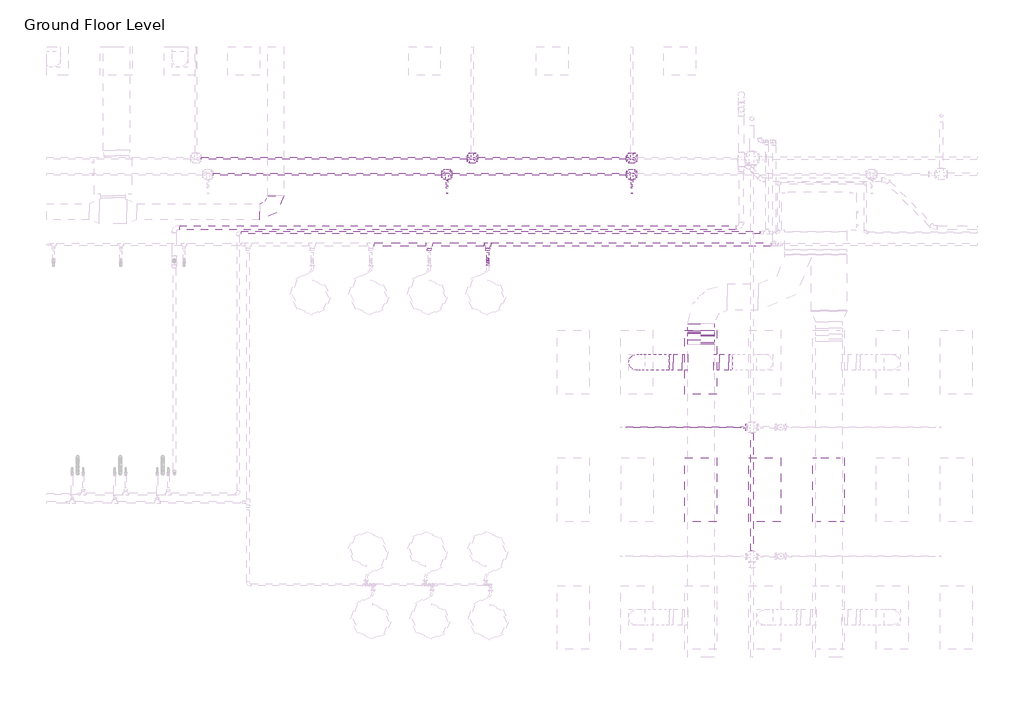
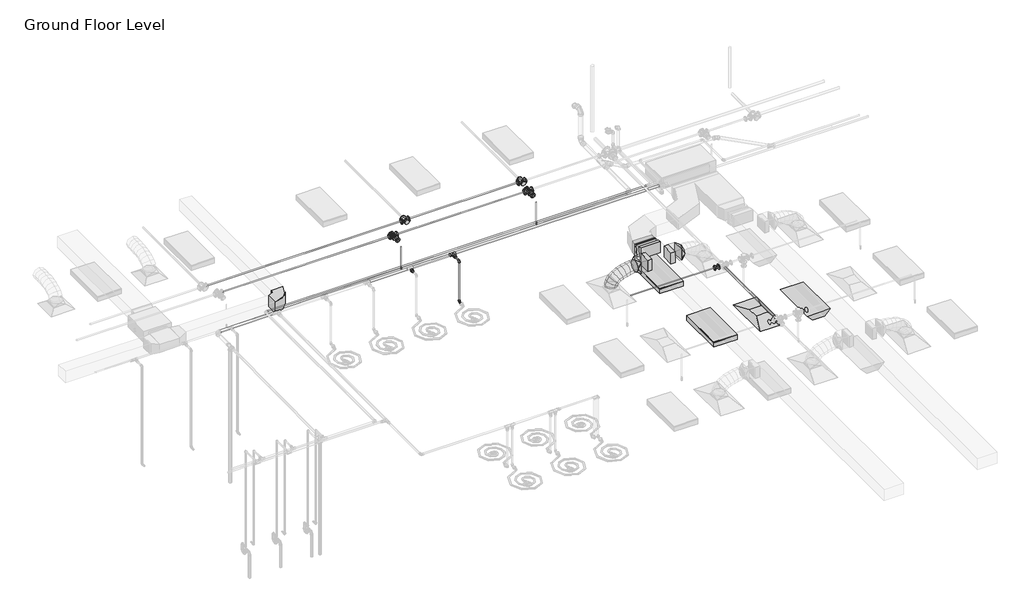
# One storey, part 47 of 66: 18 pipe segments, 12 pipe fittings, 8 duct fittings, 5 duct segments, 3 light fixtures, 2 fire suppression terminals, 1 air terminal.
"""IFC4 building model written with IfcOpenShell, lengths in millimetres."""

from ifc_helpers import new_model, si_unit, point, frame, frame_2d, origin, place, context, project, spatial, polyline, circle_curve, ellipse_curve, trimmed, segment, composite_curve, outline, extrude, transform, mapped, element, save
from ifc_brep_helpers import plane_surface, cylinder_surface, advanced_brep
from components import m_return_diffuser_1200x600_1200_x_600_face_300_x_300_d1983ef6, m_rectangular_elbow_radius_1_w_618da153, m_rectangular_elbow_radius_1_w_1a1d0e92, m_rectangular_takeoff_standard_cb0ccb98, m_rectangular_takeoff_standard_2be5eba1, m_rectangular_transition_angle_45_degree_8d40617b, m_rectangular_to_round_transition_angle_45_degree_641efff0, m_sprinkler_pendent_15_mm_pendent_06fcbd8e, m_emergency_recessed_lighting_fixture_600x1200_277_5b10b25d, m_troffer_light_parabolic_rectangular1_0600x1200mm_4_lamp_86473d4a, m_reducer_flanged_cs_class_150_standard_ccf252ad, m_reducer_flanged_cs_class_150_standard_83138b42, m_tee_round_base_flanged_cs_class_150_standard_7e5987a1, standard_517a5a8d, standard_cd25fed3, standard_f1337950

model = new_model("IFC4")

# Units and contexts
model_context = context("Model", 3, world=origin())
ifc_project = project(units=[si_unit("LENGTHUNIT", "METRE", prefix="MILLI")], contexts=[model_context])

# Site, building, storey
site = spatial("IfcSite", under=ifc_project)
building = spatial("IfcBuilding", under=site)
storey = spatial("IfcBuildingStorey", under=building, Name="Ground Floor Level", Elevation=900.0)

# Air terminal
placement = place(None, origin())
m_return_diffuser_1200x600_1200_x_600_face_300_x_300_shape = m_return_diffuser_1200x600_1200_x_600_face_300_x_300_d1983ef6(model_context)
element("IfcAirTerminal", 1, ObjectType="M_Return Diffuser 1200x600 : 1200 x 600 Face 300 x 300 Connection", at=placement, inside=storey, context=model_context, shape_type="MappedRepresentation", body=[
    mapped(m_return_diffuser_1200x600_1200_x_600_face_300_x_300_shape, transform((-5737.2327605, 8835.2153534, 3650.0), x_axis=(0.0, 1.0, 0.0), y_axis=(-1.0, 0.0, 0.0), z_axis=(0.0, 0.0, 1.0))),
])

# Duct fittings
m_rectangular_elbow_radius_1_w_shape = m_rectangular_elbow_radius_1_w_618da153(model_context)
element("IfcDuctFitting", 2, ObjectType="M_Rectangular Elbow - Radius : 1 W", at=placement, inside=storey, context=model_context, shape_type="MappedRepresentation", body=[
    mapped(m_rectangular_elbow_radius_1_w_shape, transform((-14937.2327605, 14069.8153534, 4075.2881511), x_axis=(1.0, 0.0, 0.0), y_axis=(0.0, 1.0, 0.0), z_axis=(0.0, 0.0, 1.0))),
])
m_rectangular_elbow_radius_1_w_2_shape = m_rectangular_elbow_radius_1_w_1a1d0e92(model_context)
element("IfcDuctFitting", 3, ObjectType="M_Rectangular Elbow - Radius : 1 W", at=placement, inside=storey, context=model_context, shape_type="MappedRepresentation", body=[
    mapped(m_rectangular_elbow_radius_1_w_2_shape, transform((-6939.6910789, 11605.2153534, 4150.0), x_axis=(0.0, 1.0, 0.0), y_axis=(-4.8368849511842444e-06, 0.0, -0.9999999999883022), z_axis=(-0.9999999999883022, 0.0, 4.8368849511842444e-06))),
])
element("IfcDuctFitting", 4, ObjectType="M_Rectangular Elbow - Radius : 1 W", at=placement, inside=storey, context=model_context, shape_type="MappedRepresentation", body=[
    mapped(m_rectangular_elbow_radius_1_w_2_shape, transform((-6939.6912607, 11801.8710367, 4107.1399598), x_axis=(0.0, -1.0, 0.0), y_axis=(4.836885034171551e-06, 0.0, 0.9999999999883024), z_axis=(-0.9999999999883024, 0.0, 4.836885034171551e-06))),
])
m_rectangular_takeoff_standard_shape = m_rectangular_takeoff_standard_cb0ccb98(model_context)
element("IfcDuctFitting", 5, ObjectType="M_Rectangular Takeoff : Standard", at=placement, inside=storey, context=model_context, shape_type="MappedRepresentation", body=[
    mapped(m_rectangular_takeoff_standard_shape, transform((-6689.6910789, 11235.2153534, 4150.0), x_axis=(1.0, 0.0, 0.0), y_axis=(0.0, -1.0, 0.0), z_axis=(0.0, 0.0, -1.0))),
])
m_rectangular_takeoff_standard_2_shape = m_rectangular_takeoff_standard_2be5eba1(model_context)
element("IfcDuctFitting", 6, ObjectType="M_Rectangular Takeoff : Standard", at=placement, inside=storey, context=model_context, shape_type="MappedRepresentation", body=[
    mapped(m_rectangular_takeoff_standard_2_shape, transform((-7189.6910789, 11235.2153534, 4150.0), x_axis=(-1.0, 0.0, 0.0), y_axis=(0.0, 1.0, 0.0), z_axis=(0.0, 0.0, -1.0))),
])
m_rectangular_transition_angle_45_degree_shape = m_rectangular_transition_angle_45_degree_8d40617b(model_context)
element("IfcDuctFitting", 7, ObjectType="M_Rectangular Transition - Angle : 45 Degree", at=placement, inside=storey, context=model_context, shape_type="MappedRepresentation", body=[
    mapped(m_rectangular_transition_angle_45_degree_shape, transform((-6939.6912351, 11774.1025359, 4112.4195134), x_axis=(9.034404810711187e-07, -0.9824014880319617, 0.18678146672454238), y_axis=(0.9999999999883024, 0.0, -4.836885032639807e-06), z_axis=(4.751763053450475e-06, 0.1867814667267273, 0.9824014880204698))),
])
m_rectangular_to_round_transition_angle_45_degree_shape = m_rectangular_to_round_transition_angle_45_degree_641efff0(model_context)
element("IfcDuctFitting", 8, ObjectType="M_Rectangular to Round Transition - Angle : 45 Degree", at=placement, inside=storey, context=model_context, shape_type="MappedRepresentation", body=[
    mapped(m_rectangular_to_round_transition_angle_45_degree_shape, transform((-7461.2487616, 11235.2153534, 4150.0), x_axis=(-1.0, 0.0, 0.0), y_axis=(0.0, -1.0, 0.0), z_axis=(0.0, 0.0, 1.0))),
])
element("IfcDuctFitting", 9, ObjectType="M_Rectangular to Round Transition - Angle : 45 Degree", at=placement, inside=storey, context=model_context, shape_type="MappedRepresentation", body=[
    mapped(m_rectangular_to_round_transition_angle_45_degree_shape, transform((-6418.6686918, 11235.2153534, 4150.0), x_axis=(1.0, 0.0, 0.0), y_axis=(0.0, 1.0, 0.0), z_axis=(0.0, 0.0, 1.0))),
])

# Duct segments
element("IfcDuctSegment", 10, ObjectType="Flex - Round", at=placement, inside=storey, context=model_context, shape_type="AdvancedBrep", body=[
    advanced_brep(
    [(-7992.6846929, 11235.2153534, 3826.6), (-8142.6846929, 11085.2153534, 3826.6), (-8292.6846929, 11235.2153534, 3826.6), (-8142.6846929, 11385.2153534, 3826.6), (-7992.6846929, 11235.2153534, 3832.4838104), (-8142.6846929, 11085.2153534, 3857.3049615), (-8292.6846929, 11235.2153534, 3882.1261126), (-8142.6846929, 11385.2153534, 3857.3049615), (-7990.555208, 11235.2153534, 3838.7421096), (-8126.0232883, 11085.2153534, 3906.2708192), (-8261.4913687, 11235.2153534, 3973.7995287), (-8126.0232883, 11385.2153534, 3906.2708192), (-7968.5331802, 11235.2153534, 3871.1472855), (-8080.1452707, 11085.2153534, 3973.7798261), (-8191.7573612, 11235.2153534, 4076.4123668), (-8080.1452707, 11385.2153534, 3973.7798261), (-7928.5904556, 11235.2153534, 3903.4915826), (-8011.2099341, 11085.2153534, 4029.6013814), (-8093.8294126, 11235.2153534, 4155.7111802), (-8011.2099341, 11385.2153534, 4029.6013814), (-7865.6682729, 11235.2153534, 3936.1928758), (-7925.3765727, 11085.2153534, 4074.2098454), (-7985.0848725, 11235.2153534, 4212.226815), (-7925.3765727, 11385.2153534, 4074.2098454), (-7786.815881, 11235.2153534, 3963.8479616), (-7828.8044806, 11085.2153534, 4108.0795788), (-7870.7930803, 11235.2153534, 4252.311196), (-7828.8044806, 11385.2153534, 4108.0795788), (-7700.2438983, 11235.2153534, 3984.0509494), (-7727.652952, 11085.2153534, 4131.684942), (-7755.0620057, 11235.2153534, 4279.3189347), (-7727.652952, 11385.2153534, 4131.684942), (-7613.759715, 11235.2153534, 3996.0504424), (-7628.081281, 11085.2153534, 4145.5002956), (-7642.4028469, 11235.2153534, 4294.9501488), (-7628.081281, 11385.2153534, 4145.5002956), (-7539.5984134, 11235.2153534, 4000.0), (-7543.5898089, 11085.2153534, 4150.0), (-7547.5812043, 11235.2153534, 4300.0), (-7543.5898089, 11385.2153534, 4150.0), (-7536.2487616, 11235.2153534, 4000.0), (-7536.2487616, 11385.2153534, 4150.0), (-7536.2487616, 11235.2153534, 4300.0), (-7536.2487616, 11085.2153534, 4150.0)],
    [
        (0, 1, circle_curve(frame((-8142.6846929, 11235.2153534, 3826.6), z_axis=(0.0, 0.0, -1.0), x_axis=(1.0, 0.0, 0.0)), 150.0)),
        (1, 2, circle_curve(frame((-8142.6846929, 11235.2153534, 3826.6), z_axis=(0.0, 0.0, -1.0), x_axis=(1.0, 0.0, 0.0)), 150.0)),
        (2, 3, circle_curve(frame((-8142.6846929, 11235.2153534, 3826.6), z_axis=(0.0, 0.0, -1.0), x_axis=(1.0, 0.0, 0.0)), 150.0)),
        (3, 0, circle_curve(frame((-8142.6846929, 11235.2153534, 3826.6), z_axis=(0.0, 0.0, -1.0), x_axis=(1.0, 0.0, 0.0)), 150.0)),
        (0, 4),
        (4, 5, ellipse_curve(frame((-8142.6846929, 11235.2153534, 3857.3049615), z_axis=(-0.1632543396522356, 0.0, -0.9865840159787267), x_axis=(0.9865840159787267, 0.0, -0.16325433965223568)), 152.039763, 150.0)),
        (5, 1),
        (5, 6, ellipse_curve(frame((-8142.6846929, 11235.2153534, 3857.3049615), z_axis=(-0.1632543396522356, 0.0, -0.9865840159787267), x_axis=(0.9865840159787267, 0.0, -0.16325433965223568)), 152.039763, 150.0)),
        (6, 2),
        (6, 7, ellipse_curve(frame((-8142.6846929, 11235.2153534, 3857.3049615), z_axis=(-0.1632543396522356, 0.0, -0.9865840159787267), x_axis=(0.9865840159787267, 0.0, -0.16325433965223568)), 152.039763, 150.0)),
        (7, 3),
        (7, 4, ellipse_curve(frame((-8142.6846929, 11235.2153534, 3857.3049615), z_axis=(-0.1632543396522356, 0.0, -0.9865840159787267), x_axis=(0.9865840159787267, 0.0, -0.16325433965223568)), 152.039763, 150.0)),
        (4, 8),
        (8, 9, ellipse_curve(frame((-8126.0232883, 11235.2153534, 3906.2708192), z_axis=(-0.4461280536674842, 0.0, -0.8949691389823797), x_axis=(0.8949691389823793, 0.0, -0.4461280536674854)), 151.366203, 150.0)),
        (9, 5),
        (9, 10, ellipse_curve(frame((-8126.0232883, 11235.2153534, 3906.2708192), z_axis=(-0.4461280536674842, 0.0, -0.8949691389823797), x_axis=(0.8949691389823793, 0.0, -0.4461280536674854)), 151.366203, 150.0)),
        (10, 6),
        (10, 11, ellipse_curve(frame((-8126.0232883, 11235.2153534, 3906.2708192), z_axis=(-0.4461280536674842, 0.0, -0.8949691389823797), x_axis=(0.8949691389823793, 0.0, -0.4461280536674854)), 151.366203, 150.0)),
        (11, 7),
        (11, 8, ellipse_curve(frame((-8126.0232883, 11235.2153534, 3906.2708192), z_axis=(-0.4461280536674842, 0.0, -0.8949691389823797), x_axis=(0.8949691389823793, 0.0, -0.4461280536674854)), 151.366203, 150.0)),
        (8, 12),
        (12, 13, ellipse_curve(frame((-8080.1452707, 11235.2153534, 3973.7798261), z_axis=(-0.676875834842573, 0.0, -0.7360972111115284), x_axis=(0.7360972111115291, 0.0, -0.6768758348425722)), 151.6268352, 150.0)),
        (13, 9),
        (13, 14, ellipse_curve(frame((-8080.1452707, 11235.2153534, 3973.7798261), z_axis=(-0.676875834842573, 0.0, -0.7360972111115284), x_axis=(0.7360972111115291, 0.0, -0.6768758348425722)), 151.6268352, 150.0)),
        (14, 10),
        (14, 15, ellipse_curve(frame((-8080.1452707, 11235.2153534, 3973.7798261), z_axis=(-0.676875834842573, 0.0, -0.7360972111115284), x_axis=(0.7360972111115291, 0.0, -0.6768758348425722)), 151.6268352, 150.0)),
        (15, 11),
        (15, 12, ellipse_curve(frame((-8080.1452707, 11235.2153534, 3973.7798261), z_axis=(-0.676875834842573, 0.0, -0.7360972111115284), x_axis=(0.7360972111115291, 0.0, -0.6768758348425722)), 151.6268352, 150.0)),
        (12, 16),
        (16, 17, ellipse_curve(frame((-8011.2099341, 11235.2153534, 4029.6013814), z_axis=(-0.8364738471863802, 0.0, -0.5480068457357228), x_axis=(0.5480068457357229, 0.0, -0.8364738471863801)), 150.7635884, 150.0)),
        (17, 13),
        (17, 18, ellipse_curve(frame((-8011.2099341, 11235.2153534, 4029.6013814), z_axis=(-0.8364738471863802, 0.0, -0.5480068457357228), x_axis=(0.5480068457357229, 0.0, -0.8364738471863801)), 150.7635884, 150.0)),
        (18, 14),
        (18, 19, ellipse_curve(frame((-8011.2099341, 11235.2153534, 4029.6013814), z_axis=(-0.8364738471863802, 0.0, -0.5480068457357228), x_axis=(0.5480068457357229, 0.0, -0.8364738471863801)), 150.7635884, 150.0)),
        (19, 15),
        (19, 16, ellipse_curve(frame((-8011.2099341, 11235.2153534, 4029.6013814), z_axis=(-0.8364738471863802, 0.0, -0.5480068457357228), x_axis=(0.5480068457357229, 0.0, -0.8364738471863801)), 150.7635884, 150.0)),
        (16, 20),
        (20, 21, ellipse_curve(frame((-7925.3765727, 11235.2153534, 4074.2098454), z_axis=(-0.917795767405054, 0.0, -0.3970528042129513), x_axis=(0.3970528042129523, 0.0, -0.9177957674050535)), 150.3787384, 150.0)),
        (21, 17),
        (21, 22, ellipse_curve(frame((-7925.3765727, 11235.2153534, 4074.2098454), z_axis=(-0.917795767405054, 0.0, -0.3970528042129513), x_axis=(0.3970528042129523, 0.0, -0.9177957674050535)), 150.3787384, 150.0)),
        (22, 18),
        (22, 23, ellipse_curve(frame((-7925.3765727, 11235.2153534, 4074.2098454), z_axis=(-0.917795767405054, 0.0, -0.3970528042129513), x_axis=(0.3970528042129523, 0.0, -0.9177957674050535)), 150.3787384, 150.0)),
        (23, 19),
        (23, 20, ellipse_curve(frame((-7925.3765727, 11235.2153534, 4074.2098454), z_axis=(-0.917795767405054, 0.0, -0.3970528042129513), x_axis=(0.3970528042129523, 0.0, -0.9177957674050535)), 150.3787384, 150.0)),
        (20, 24),
        (24, 25, ellipse_curve(frame((-7828.8044806, 11235.2153534, 4108.0795788), z_axis=(-0.9601411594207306, 0.0, -0.2795155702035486), x_axis=(0.27951557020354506, 0.0, -0.9601411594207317)), 150.2191795, 150.0)),
        (25, 21),
        (25, 26, ellipse_curve(frame((-7828.8044806, 11235.2153534, 4108.0795788), z_axis=(-0.9601411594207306, 0.0, -0.2795155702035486), x_axis=(0.27951557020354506, 0.0, -0.9601411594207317)), 150.2191795, 150.0)),
        (26, 22),
        (26, 27, ellipse_curve(frame((-7828.8044806, 11235.2153534, 4108.0795788), z_axis=(-0.9601411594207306, 0.0, -0.2795155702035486), x_axis=(0.27951557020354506, 0.0, -0.9601411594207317)), 150.2191795, 150.0)),
        (27, 23),
        (27, 24, ellipse_curve(frame((-7828.8044806, 11235.2153534, 4108.0795788), z_axis=(-0.9601411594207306, 0.0, -0.2795155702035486), x_axis=(0.27951557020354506, 0.0, -0.9601411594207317)), 150.2191795, 150.0)),
        (24, 28),
        (28, 29, ellipse_curve(frame((-7727.652952, 11235.2153534, 4131.684942), z_axis=(-0.9831991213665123, 0.0, -0.1825362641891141), x_axis=(0.18253626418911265, 0.0, -0.9831991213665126)), 150.1567581, 150.0)),
        (29, 25),
        (29, 30, ellipse_curve(frame((-7727.652952, 11235.2153534, 4131.684942), z_axis=(-0.9831991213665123, 0.0, -0.1825362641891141), x_axis=(0.18253626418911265, 0.0, -0.9831991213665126)), 150.1567581, 150.0)),
        (30, 26),
        (30, 31, ellipse_curve(frame((-7727.652952, 11235.2153534, 4131.684942), z_axis=(-0.9831991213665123, 0.0, -0.1825362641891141), x_axis=(0.18253626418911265, 0.0, -0.9831991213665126)), 150.1567581, 150.0)),
        (31, 27),
        (31, 28, ellipse_curve(frame((-7727.652952, 11235.2153534, 4131.684942), z_axis=(-0.9831991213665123, 0.0, -0.1825362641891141), x_axis=(0.18253626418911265, 0.0, -0.9831991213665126)), 150.1567581, 150.0)),
        (28, 32),
        (32, 33, ellipse_curve(frame((-7628.081281, 11235.2153534, 4145.5002956), z_axis=(-0.9954398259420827, 0.0, -0.09539157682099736), x_axis=(0.09539157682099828, 0.0, -0.9954398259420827)), 150.1344926, 150.0)),
        (33, 29),
        (33, 34, ellipse_curve(frame((-7628.081281, 11235.2153534, 4145.5002956), z_axis=(-0.9954398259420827, 0.0, -0.09539157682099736), x_axis=(0.09539157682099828, 0.0, -0.9954398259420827)), 150.1344926, 150.0)),
        (34, 30),
        (34, 35, ellipse_curve(frame((-7628.081281, 11235.2153534, 4145.5002956), z_axis=(-0.9954398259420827, 0.0, -0.09539157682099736), x_axis=(0.09539157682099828, 0.0, -0.9954398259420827)), 150.1344926, 150.0)),
        (35, 31),
        (35, 32, ellipse_curve(frame((-7628.081281, 11235.2153534, 4145.5002956), z_axis=(-0.9954398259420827, 0.0, -0.09539157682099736), x_axis=(0.09539157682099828, 0.0, -0.9954398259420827)), 150.1344926, 150.0)),
        (32, 36),
        (36, 37, ellipse_curve(frame((-7543.5898089, 11235.2153534, 4150.0), z_axis=(-0.9996461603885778, 0.0, -0.026599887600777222), x_axis=(0.026599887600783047, 0.0, -0.9996461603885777)), 150.0530947, 150.0)),
        (37, 33),
        (37, 38, ellipse_curve(frame((-7543.5898089, 11235.2153534, 4150.0), z_axis=(-0.9996461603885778, 0.0, -0.026599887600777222), x_axis=(0.026599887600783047, 0.0, -0.9996461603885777)), 150.0530947, 150.0)),
        (38, 34),
        (38, 39, ellipse_curve(frame((-7543.5898089, 11235.2153534, 4150.0), z_axis=(-0.9996461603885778, 0.0, -0.026599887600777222), x_axis=(0.026599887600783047, 0.0, -0.9996461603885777)), 150.0530947, 150.0)),
        (39, 35),
        (39, 36, ellipse_curve(frame((-7543.5898089, 11235.2153534, 4150.0), z_axis=(-0.9996461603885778, 0.0, -0.026599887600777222), x_axis=(0.026599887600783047, 0.0, -0.9996461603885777)), 150.0530947, 150.0)),
        (40, 41, circle_curve(frame((-7536.2487616, 11235.2153534, 4150.0), z_axis=(1.0, 0.0, 0.0), x_axis=(0.0, 0.0, -1.0)), 150.0)),
        (41, 42, circle_curve(frame((-7536.2487616, 11235.2153534, 4150.0), z_axis=(1.0, 0.0, 0.0), x_axis=(0.0, 0.0, -1.0)), 150.0)),
        (42, 43, circle_curve(frame((-7536.2487616, 11235.2153534, 4150.0), z_axis=(1.0, 0.0, 0.0), x_axis=(0.0, 0.0, -1.0)), 150.0)),
        (43, 40, circle_curve(frame((-7536.2487616, 11235.2153534, 4150.0), z_axis=(1.0, 0.0, 0.0), x_axis=(0.0, 0.0, -1.0)), 150.0)),
        (36, 40),
        (43, 37),
        (42, 38),
        (41, 39),
    ],
    [
        plane_surface(frame((-8142.6846929, 11085.2153534, 3826.6), z_axis=(0.0, 0.0, -1.0), x_axis=(1.0, 0.0, 0.0))),
        cylinder_surface(frame((-8142.6846929, 11235.2153534, 3826.6), z_axis=(0.0, 0.0, -1.0), x_axis=(1.0, 0.0, 0.0)), 150.0),
        cylinder_surface(frame((-8142.6846929, 11235.2153534, 3857.3049615), z_axis=(-0.32212824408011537, 0.0, -0.946696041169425), x_axis=(0.946696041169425, 0.0, -0.32212824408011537)), 150.0),
        cylinder_surface(frame((-8126.0232883, 11235.2153534, 3906.2708192), z_axis=(-0.5620745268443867, 0.0, -0.8270865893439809), x_axis=(0.8270865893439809, 0.0, -0.5620745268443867)), 150.0),
        cylinder_surface(frame((-8080.1452707, 11235.2153534, 3973.7798261), z_axis=(-0.777152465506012, 0.0, -0.6293123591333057), x_axis=(0.6293123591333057, 0.0, -0.777152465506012)), 150.0),
        cylinder_surface(frame((-8011.2099341, 11235.2153534, 4029.6013814), z_axis=(-0.887322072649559, 0.0, -0.4611502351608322), x_axis=(0.4611502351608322, 0.0, -0.887322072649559)), 150.0),
        cylinder_surface(frame((-7925.3765727, 11235.2153534, 4074.2098454), z_axis=(-0.9436464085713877, 0.0, -0.3309553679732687), x_axis=(0.3309553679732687, 0.0, -0.9436464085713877)), 150.0),
        cylinder_surface(frame((-7828.8044806, 11235.2153534, 4108.0795788), z_axis=(-0.9738340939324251, 0.0, -0.2272601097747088), x_axis=(0.2272601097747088, 0.0, -0.9738340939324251)), 150.0),
        cylinder_surface(frame((-7727.652952, 11235.2153534, 4131.684942), z_axis=(-0.9905113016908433, 0.0, -0.1374312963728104), x_axis=(0.1374312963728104, 0.0, -0.9905113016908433)), 150.0),
        cylinder_surface(frame((-7628.081281, 11235.2153534, 4145.5002956), z_axis=(-0.998584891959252, 0.0, -0.05318095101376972), x_axis=(0.05318095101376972, 0.0, -0.998584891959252)), 150.0),
        plane_surface(frame((-7536.2487616, 11235.2153534, 4000.0), z_axis=(1.0, 0.0, 0.0), x_axis=(0.0, 1.0, 0.0))),
        cylinder_surface(frame((-7543.5898089, 11235.2153534, 4150.0), z_axis=(-1.0, 0.0, 0.0), x_axis=(0.0, 0.0, -1.0)), 150.0),
    ],
    [
        (0, [[1, 2, 3, 4]]),
        (1, [[-1, 5, 6, 7]]),
        (1, [[-2, -7, 8, 9]]),
        (1, [[-3, -9, 10, 11]]),
        (1, [[-4, -11, 12, -5]]),
        (2, [[-6, 13, 14, 15]]),
        (2, [[-8, -15, 16, 17]]),
        (2, [[-10, -17, 18, 19]]),
        (2, [[-12, -19, 20, -13]]),
        (3, [[-14, 21, 22, 23]]),
        (3, [[-16, -23, 24, 25]]),
        (3, [[-18, -25, 26, 27]]),
        (3, [[-20, -27, 28, -21]]),
        (4, [[-22, 29, 30, 31]]),
        (4, [[-24, -31, 32, 33]]),
        (4, [[-26, -33, 34, 35]]),
        (4, [[-28, -35, 36, -29]]),
        (5, [[-30, 37, 38, 39]]),
        (5, [[-32, -39, 40, 41]]),
        (5, [[-34, -41, 42, 43]]),
        (5, [[-36, -43, 44, -37]]),
        (6, [[-38, 45, 46, 47]]),
        (6, [[-40, -47, 48, 49]]),
        (6, [[-42, -49, 50, 51]]),
        (6, [[-44, -51, 52, -45]]),
        (7, [[-46, 53, 54, 55]]),
        (7, [[-48, -55, 56, 57]]),
        (7, [[-50, -57, 58, 59]]),
        (7, [[-52, -59, 60, -53]]),
        (8, [[-54, 61, 62, 63]]),
        (8, [[-56, -63, 64, 65]]),
        (8, [[-58, -65, 66, 67]]),
        (8, [[-60, -67, 68, -61]]),
        (9, [[-62, 69, 70, 71]]),
        (9, [[-64, -71, 72, 73]]),
        (9, [[-66, -73, 74, 75]]),
        (9, [[-68, -75, 76, -69]]),
        (10, [[77, 78, 79, 80]]),
        (11, [[-70, 81, -80, 82]]),
        (11, [[-72, -82, -79, 83]]),
        (11, [[-74, -83, -78, 84]]),
        (11, [[-76, -84, -77, -81]]),
    ],
),
])
element("IfcDuctSegment", 11, ObjectType="Radius Elbows / Taps", at=placement, inside=storey, context=model_context, shape_type="SweptSolid", body=[
    extrude(outline(polyline([(-7291.2910789, 11385.2153534), (-7291.2910789, 11085.2153534), (-7461.2487616, 11085.2153534), (-7461.2487616, 11385.2153534), (-7291.2910789, 11385.2153534)])), frame((0.0, 0.0, 4000.0), z_axis=(0.0, 0.0, 1.0), x_axis=(1.0, 0.0, 0.0)), (0.0, 0.0, 1.0), 300.0),
])
element("IfcDuctSegment", 12, ObjectType="Radius Elbows / Taps", at=placement, inside=storey, context=model_context, shape_type="SweptSolid", body=[
    extrude(outline(polyline([(-6588.0910789, 11085.2153534), (-6588.0910789, 11385.2153534), (-6418.6686918, 11385.2153534), (-6418.6686918, 11085.2153534), (-6588.0910789, 11085.2153534)])), frame((0.0, 0.0, 4000.0), z_axis=(0.0, 0.0, 1.0), x_axis=(1.0, 0.0, 0.0)), (0.0, 0.0, 1.0), 300.0),
])
element("IfcDuctSegment", 13, ObjectType="Radius Elbows / Taps", at=placement, inside=storey, context=model_context, shape_type="SweptSolid", body=[
    extrude(outline(polyline([(-7189.6912607, 11959.4153535), (-6689.6912607, 11959.4153535), (-6689.6912607, 11830.1369759), (-7189.6912607, 11830.1369759), (-7189.6912607, 11959.4153535)])), frame((0.0, 0.0, 3957.1399598), z_axis=(0.0, 0.0, 1.0), x_axis=(1.0, 0.0, 0.0)), (0.0, 0.0, 1.0), 300.0),
])
element("IfcDuctSegment", 14, ObjectType="Radius Elbows / Taps", at=placement, inside=storey, context=model_context, shape_type="SweptSolid", body=[
    extrude(outline(polyline([(-1e-07, -500.0), (0.0, 0.0), (119.6684185, 0.0), (119.6684185, -500.0), (-1e-07, -500.0)])), frame((-7189.6911044, 11604.9664123, 3997.3602654), z_axis=(0.0, 0.186781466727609, 0.9824014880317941), x_axis=(-9.034404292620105e-07, 0.982401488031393, -0.18678146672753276)), (0.0, 0.0, 1.0), 300.0),
])

# Fire suppression terminals
m_sprinkler_pendent_15_mm_pendent_shape = m_sprinkler_pendent_15_mm_pendent_06fcbd8e(model_context)
element("IfcFireSuppressionTerminal", 15, ObjectType="M_Sprinkler - Pendent : 15 mm Pendent", at=placement, inside=storey, context=model_context, shape_type="MappedRepresentation", body=[
    mapped(m_sprinkler_pendent_15_mm_pendent_shape, transform((-11714.286216, 14412.7243649, 3650.0), x_axis=(1.0, 0.0, 0.0), y_axis=(0.0, 1.0, 0.0), z_axis=(0.0, 0.0, 1.0))),
])
element("IfcFireSuppressionTerminal", 16, ObjectType="M_Sprinkler - Pendent : 15 mm Pendent", at=placement, inside=storey, context=model_context, shape_type="MappedRepresentation", body=[
    mapped(m_sprinkler_pendent_15_mm_pendent_shape, transform((-8237.2327605, 14412.7243649, 3650.0), x_axis=(1.0, 0.0, 0.0), y_axis=(0.0, 1.0, 0.0), z_axis=(0.0, 0.0, 1.0))),
])

# Light fixtures
m_emergency_recessed_lighting_fixture_600x1200_277_shape = m_emergency_recessed_lighting_fixture_600x1200_277_5b10b25d(model_context)
element("IfcLightFixture", 17, ObjectType="M_Emergency Recessed Lighting Fixture : 600x1200 - 277", at=placement, inside=storey, context=model_context, shape_type="MappedRepresentation", body=[
    mapped(m_emergency_recessed_lighting_fixture_600x1200_277_shape, transform((-4837.2327605, 8235.2153534, 3650.0), x_axis=(0.0, 1.0, 0.0), y_axis=(-1.0, 0.0, 0.0), z_axis=(0.0, 0.0, 1.0))),
])
m_troffer_light_parabolic_rectangular1_0600x1200mm_4_lamp_shape = m_troffer_light_parabolic_rectangular1_0600x1200mm_4_lamp_86473d4a(model_context)
element("IfcLightFixture", 18, ObjectType="M_Troffer Light - Parabolic Rectangular1 : 0600x1200mm(4 Lamp) - 277V 2", at=placement, inside=storey, context=model_context, shape_type="MappedRepresentation", body=[
    mapped(m_troffer_light_parabolic_rectangular1_0600x1200mm_4_lamp_shape, transform((-6996.6986926, 11253.918855, 3650.0), x_axis=(0.0, 1.0, 0.0), y_axis=(-1.0, 0.0, 0.0), z_axis=(0.0, 0.0, 1.0))),
])
element("IfcLightFixture", 19, ObjectType="M_Troffer Light - Parabolic Rectangular1 : 0600x1200mm(4 Lamp) - 277V 2", at=placement, inside=storey, context=model_context, shape_type="MappedRepresentation", body=[
    mapped(m_troffer_light_parabolic_rectangular1_0600x1200mm_4_lamp_shape, transform((-6996.6986926, 8853.918855, 3650.0), x_axis=(0.0, 1.0, 0.0), y_axis=(-1.0, 0.0, 0.0), z_axis=(0.0, 0.0, 1.0))),
])

# Pipe fittings
m_reducer_flanged_cs_class_150_standard_shape = m_reducer_flanged_cs_class_150_standard_ccf252ad(model_context)
element("IfcPipeFitting", 20, ObjectType="M_Reducer - Flanged - CS - Class 150 : Standard", at=placement, inside=storey, context=model_context, shape_type="MappedRepresentation", body=[
    mapped(m_reducer_flanged_cs_class_150_standard_shape, transform((-11714.286216, 14672.759591, 4291.0943441), x_axis=(0.0, -1.0, 0.0), y_axis=(1.0, 0.0, 0.0), z_axis=(0.0, 0.0, 1.0))),
])
element("IfcPipeFitting", 21, ObjectType="M_Reducer - Flanged - CS - Class 150 : Standard", at=placement, inside=storey, context=model_context, shape_type="MappedRepresentation", body=[
    mapped(m_reducer_flanged_cs_class_150_standard_shape, transform((-8237.2327605, 14672.759591, 4291.0943441), x_axis=(0.0, -1.0, 0.0), y_axis=(1.0, 0.0, 0.0), z_axis=(0.0, 0.0, 1.0))),
])
m_reducer_flanged_cs_class_150_standard_2_shape = m_reducer_flanged_cs_class_150_standard_83138b42(model_context)
element("IfcPipeFitting", 22, ObjectType="M_Reducer - Flanged - CS - Class 150 : Standard", at=placement, inside=storey, context=model_context, shape_type="MappedRepresentation", body=[
    mapped(m_reducer_flanged_cs_class_150_standard_2_shape, transform((-6080.130502, 10013.008259, 4360.0), x_axis=(-1.0, 0.0, 0.0), y_axis=(0.0, 0.0, -1.0), z_axis=(0.0, -1.0, 0.0))),
])
m_tee_round_base_flanged_cs_class_150_standard_shape = m_tee_round_base_flanged_cs_class_150_standard_7e5987a1(model_context)
element("IfcPipeFitting", 23, ObjectType="M_Tee Round Base - Flanged - CS - Class 150 : Standard", at=placement, inside=storey, context=model_context, shape_type="MappedRepresentation", body=[
    mapped(m_tee_round_base_flanged_cs_class_150_standard_shape, transform((-11714.286216, 14773.4681847, 4291.0943441), x_axis=(-1.0, 0.0, 0.0), y_axis=(0.0, 1.0, 0.0), z_axis=(0.0, 0.0, -1.0))),
])
element("IfcPipeFitting", 24, ObjectType="M_Tee Round Base - Flanged - CS - Class 150 : Standard", at=placement, inside=storey, context=model_context, shape_type="MappedRepresentation", body=[
    mapped(m_tee_round_base_flanged_cs_class_150_standard_shape, transform((-8237.2327605, 14773.4681847, 4291.0943441), x_axis=(-1.0, 0.0, 0.0), y_axis=(0.0, 1.0, 0.0), z_axis=(0.0, 0.0, -1.0))),
])
element("IfcPipeFitting", 25, ObjectType="M_Tee Round Base - Flanged - CS - Class 150 : Standard", at=placement, inside=storey, context=model_context, shape_type="MappedRepresentation", body=[
    mapped(m_tee_round_base_flanged_cs_class_150_standard_shape, transform((-11237.2327605, 15073.2009828, 4360.0), x_axis=(-1.0, 0.0, 0.0), y_axis=(0.0, -1.0, 0.0), z_axis=(0.0, 0.0, 1.0))),
])
element("IfcPipeFitting", 26, ObjectType="M_Tee Round Base - Flanged - CS - Class 150 : Standard", at=placement, inside=storey, context=model_context, shape_type="MappedRepresentation", body=[
    mapped(m_tee_round_base_flanged_cs_class_150_standard_shape, transform((-8237.2327605, 15073.2009828, 4360.0), x_axis=(-1.0, 0.0, 0.0), y_axis=(0.0, -1.0, 0.0), z_axis=(0.0, 0.0, 1.0))),
])
standard_shape = standard_517a5a8d(model_context)
element("IfcPipeFitting", 27, ObjectType="M_Elbow - CPVC - Sch 40 : Standard", at=placement, inside=storey, context=model_context, shape_type="MappedRepresentation", body=[
    mapped(standard_shape, transform((-10947.2327605, 13150.8347997, 4315.0), x_axis=(0.0, 0.0, 1.0), y_axis=(0.0, 1.0, 0.0), z_axis=(-1.0, 0.0, 0.0))),
])
element("IfcPipeFitting", 28, ObjectType="M_Elbow - CPVC - Sch 40 : Standard", at=placement, inside=storey, context=model_context, shape_type="MappedRepresentation", body=[
    mapped(standard_shape, transform((-10947.2327605, 13150.8347997, 3200.0), x_axis=(0.0, 0.0, -1.0), y_axis=(0.0, -1.0, 0.0), z_axis=(-1.0, 0.0, 0.0))),
])
standard_2_shape = standard_cd25fed3(model_context)
element("IfcPipeFitting", 29, ObjectType="M_Tee - CPVC - Sch 40 : Standard", at=placement, inside=storey, context=model_context, shape_type="MappedRepresentation", body=[
    mapped(standard_2_shape, transform((-10947.2327605, 13449.9865561, 4315.0), x_axis=(1.0, 0.0, 0.0), y_axis=(0.0, 1.0, 0.0), z_axis=(0.0, 0.0, 1.0))),
])
standard_3_shape = standard_f1337950(model_context)
element("IfcPipeFitting", 30, ObjectType="M_Coupling Reducing - CPVC - Sch 40 : Standard", at=placement, inside=storey, context=model_context, shape_type="MappedRepresentation", body=[
    mapped(standard_3_shape, transform((-12047.2327605, 13383.3115561, 4315.0), x_axis=(0.0, -1.0, 0.0), y_axis=(1.0, 0.0, 0.0), z_axis=(0.0, 0.0, 1.0))),
])
element("IfcPipeFitting", 31, ObjectType="M_Coupling Reducing - CPVC - Sch 40 : Standard", at=placement, inside=storey, context=model_context, shape_type="MappedRepresentation", body=[
    mapped(standard_3_shape, transform((-10947.2327605, 13383.3115561, 4315.0), x_axis=(0.0, -1.0, 0.0), y_axis=(1.0, 0.0, 0.0), z_axis=(0.0, 0.0, 1.0))),
])

# Pipe segments
element("IfcPipeSegment", 32, ObjectType="CPVC", at=placement, inside=storey, context=model_context, shape_type="SweptSolid", body=[
    extrude(outline(composite_curve([segment(trimmed(circle_curve(frame_2d((3200.0, -10947.2327605)), 16.7005), [point((3200.0, -10963.9332605))], [point((3183.2995, -10947.2327605))], False, "CARTESIAN"), True, "CONTINUOUS"), segment(trimmed(circle_curve(frame_2d((3200.0, -10947.2327605)), 16.7005), [point((3183.2995, -10947.2327605))], [point((3200.0, -10930.5322605))], False, "CARTESIAN"), True, "CONTINUOUS"), segment(trimmed(circle_curve(frame_2d((3200.0, -10947.2327605)), 16.7005), [point((3200.0, -10930.5322605))], [point((3216.7005, -10947.2327605))], False, "CARTESIAN"), True, "CONTINUOUS"), segment(trimmed(circle_curve(frame_2d((3200.0, -10947.2327605)), 16.7005), [point((3216.7005, -10947.2327605))], [point((3200.0, -10963.9332605))], False, "CARTESIAN"), True, "CONTINUOUS")], self_intersect=False)), frame((0.0, 13056.8347997, 0.0), z_axis=(0.0, 1.0, 0.0), x_axis=(0.0, 0.0, 1.0)), (0.0, 0.0, 1.0), 50.73745),
])
element("IfcPipeSegment", 33, ObjectType="CPVC", at=placement, inside=storey, context=model_context, shape_type="SweptSolid", body=[
    extrude(outline(composite_curve([segment(trimmed(circle_curve(frame_2d((4315.0, -10947.2327605)), 16.7005), [point((4315.0, -10930.5322605))], [point((4331.7005, -10947.2327605))], False, "CARTESIAN"), True, "CONTINUOUS"), segment(trimmed(circle_curve(frame_2d((4315.0, -10947.2327605)), 16.7005), [point((4331.7005, -10947.2327605))], [point((4315.0, -10963.9332605))], False, "CARTESIAN"), True, "CONTINUOUS"), segment(trimmed(circle_curve(frame_2d((4315.0, -10947.2327605)), 16.7005), [point((4315.0, -10963.9332605))], [point((4298.2995, -10947.2327605))], False, "CARTESIAN"), True, "CONTINUOUS"), segment(trimmed(circle_curve(frame_2d((4315.0, -10947.2327605)), 16.7005), [point((4298.2995, -10947.2327605))], [point((4315.0, -10930.5322605))], False, "CARTESIAN"), True, "CONTINUOUS")], self_intersect=False)), frame((0.0, 13194.0973497, 0.0), z_axis=(0.0, 1.0, 0.0), x_axis=(0.0, 0.0, 1.0)), (0.0, 0.0, 1.0), 109.4153315),
])
element("IfcPipeSegment", 34, ObjectType="CPVC", at=placement, inside=storey, context=model_context, shape_type="SweptSolid", body=[
    extrude(outline(composite_curve([segment(trimmed(circle_curve(frame_2d((-10947.2327605, 13150.8347997)), 16.7005), [point((-10963.9332605, 13150.8347997))], [point((-10947.2327605, 13167.5352997))], False, "CARTESIAN"), True, "CONTINUOUS"), segment(trimmed(circle_curve(frame_2d((-10947.2327605, 13150.8347997)), 16.7005), [point((-10947.2327605, 13167.5352997))], [point((-10930.5322605, 13150.8347997))], False, "CARTESIAN"), True, "CONTINUOUS"), segment(trimmed(circle_curve(frame_2d((-10947.2327605, 13150.8347997)), 16.7005), [point((-10930.5322605, 13150.8347997))], [point((-10947.2327605, 13134.1342997))], False, "CARTESIAN"), True, "CONTINUOUS"), segment(trimmed(circle_curve(frame_2d((-10947.2327605, 13150.8347997)), 16.7005), [point((-10947.2327605, 13134.1342997))], [point((-10963.9332605, 13150.8347997))], False, "CARTESIAN"), True, "CONTINUOUS")], self_intersect=False)), frame((0.0, 0.0, 3243.26255), z_axis=(0.0, 0.0, 1.0), x_axis=(1.0, 0.0, 0.0)), (0.0, 0.0, 1.0), 1028.4749),
])
element("IfcPipeSegment", 35, ObjectType="CPVC", at=placement, inside=storey, context=model_context, shape_type="SweptSolid", body=[
    extrude(outline(composite_curve([segment(trimmed(circle_curve(frame_2d((13449.9865561, 4315.0)), 30.1625), [point((13419.8240561, 4315.0))], [point((13449.9865561, 4345.1625))], False, "CARTESIAN"), True, "CONTINUOUS"), segment(trimmed(circle_curve(frame_2d((13449.9865561, 4315.0)), 30.1625), [point((13449.9865561, 4345.1625))], [point((13480.1490561, 4315.0))], False, "CARTESIAN"), True, "CONTINUOUS"), segment(trimmed(circle_curve(frame_2d((13449.9865561, 4315.0)), 30.1625), [point((13480.1490561, 4315.0))], [point((13449.9865561, 4284.8375))], False, "CARTESIAN"), True, "CONTINUOUS"), segment(trimmed(circle_curve(frame_2d((13449.9865561, 4315.0)), 30.1625), [point((13449.9865561, 4284.8375))], [point((13419.8240561, 4315.0))], False, "CARTESIAN"), True, "CONTINUOUS")], self_intersect=False)), frame((-13080.5577605, 0.0, 0.0), z_axis=(1.0, 0.0, 0.0), x_axis=(0.0, 1.0, 0.0)), (0.0, 0.0, 1.0), 966.65),
])
element("IfcPipeSegment", 36, ObjectType="CPVC", at=placement, inside=storey, context=model_context, shape_type="SweptSolid", body=[
    extrude(outline(composite_curve([segment(trimmed(circle_curve(frame_2d((13449.9865561, 4315.0)), 30.1625), [point((13419.8240561, 4315.0))], [point((13449.9865561, 4345.1625))], False, "CARTESIAN"), True, "CONTINUOUS"), segment(trimmed(circle_curve(frame_2d((13449.9865561, 4315.0)), 30.1625), [point((13449.9865561, 4345.1625))], [point((13480.1490561, 4315.0))], False, "CARTESIAN"), True, "CONTINUOUS"), segment(trimmed(circle_curve(frame_2d((13449.9865561, 4315.0)), 30.1625), [point((13480.1490561, 4315.0))], [point((13449.9865561, 4284.8375))], False, "CARTESIAN"), True, "CONTINUOUS"), segment(trimmed(circle_curve(frame_2d((13449.9865561, 4315.0)), 30.1625), [point((13449.9865561, 4284.8375))], [point((13419.8240561, 4315.0))], False, "CARTESIAN"), True, "CONTINUOUS")], self_intersect=False)), frame((-11980.5577605, 0.0, 0.0), z_axis=(1.0, 0.0, 0.0), x_axis=(0.0, 1.0, 0.0)), (0.0, 0.0, 1.0), 966.65),
])
element("IfcPipeSegment", 37, ObjectType="CPVC", at=placement, inside=storey, context=model_context, shape_type="SweptSolid", body=[
    extrude(outline(composite_curve([segment(trimmed(circle_curve(frame_2d((13675.2153534, 4250.0)), 21.082), [point((13654.1333534, 4250.0))], [point((13675.2153534, 4271.082))], False, "CARTESIAN"), True, "CONTINUOUS"), segment(trimmed(circle_curve(frame_2d((13675.2153534, 4250.0)), 21.082), [point((13675.2153534, 4271.082))], [point((13696.2973534, 4250.0))], False, "CARTESIAN"), True, "CONTINUOUS"), segment(trimmed(circle_curve(frame_2d((13675.2153534, 4250.0)), 21.082), [point((13696.2973534, 4250.0))], [point((13675.2153534, 4228.918))], False, "CARTESIAN"), True, "CONTINUOUS"), segment(trimmed(circle_curve(frame_2d((13675.2153534, 4250.0)), 21.082), [point((13675.2153534, 4228.918))], [point((13654.1333534, 4250.0))], False, "CARTESIAN"), True, "CONTINUOUS")], self_intersect=False)), frame((-15584.8736174, 0.0, 0.0), z_axis=(1.0, 0.0, 0.0), x_axis=(0.0, 1.0, 0.0)), (0.0, 0.0, 1.0), 9750.0786527),
])
element("IfcPipeSegment", 38, ObjectType="CPVC", at=placement, inside=storey, context=model_context, shape_type="SweptSolid", body=[
    extrude(outline(composite_curve([segment(trimmed(circle_curve(frame_2d((13449.9865561, 4315.0)), 30.1625), [point((13419.8240561, 4315.0))], [point((13449.9865561, 4345.1625))], False, "CARTESIAN"), True, "CONTINUOUS"), segment(trimmed(circle_curve(frame_2d((13449.9865561, 4315.0)), 30.1625), [point((13449.9865561, 4345.1625))], [point((13480.1490561, 4315.0))], False, "CARTESIAN"), True, "CONTINUOUS"), segment(trimmed(circle_curve(frame_2d((13449.9865561, 4315.0)), 30.1625), [point((13480.1490561, 4315.0))], [point((13449.9865561, 4284.8375))], False, "CARTESIAN"), True, "CONTINUOUS"), segment(trimmed(circle_curve(frame_2d((13449.9865561, 4315.0)), 30.1625), [point((13449.9865561, 4284.8375))], [point((13419.8240561, 4315.0))], False, "CARTESIAN"), True, "CONTINUOUS")], self_intersect=False)), frame((-10880.5577605, 0.0, 0.0), z_axis=(1.0, 0.0, 0.0), x_axis=(0.0, 1.0, 0.0)), (0.0, 0.0, 1.0), 5253.0113849),
])
element("IfcPipeSegment", 39, ObjectType="PVC - DWV", at=placement, inside=storey, context=model_context, shape_type="SweptSolid", body=[
    extrude(outline(composite_curve([segment(trimmed(circle_curve(frame_2d((0.0, 36.5125)), 36.5125), [point((0.0, 0.0))], [point((-36.5125, 36.5125))], False, "CARTESIAN"), True, "CONTINUOUS"), segment(trimmed(circle_curve(frame_2d((0.0, 36.5125)), 36.5125), [point((-36.5125, 36.5125))], [point((0.0, 73.025))], False, "CARTESIAN"), True, "CONTINUOUS"), segment(trimmed(circle_curve(frame_2d((0.0, 36.5125)), 36.5125), [point((0.0, 73.025))], [point((36.5125, 36.5125))], False, "CARTESIAN"), True, "CONTINUOUS"), segment(trimmed(circle_curve(frame_2d((0.0, 36.5125)), 36.5125), [point((36.5125, 36.5125))], [point((0.0, 0.0))], False, "CARTESIAN"), True, "CONTINUOUS")], self_intersect=False)), frame((-16745.3067515, 13732.2923932, 4051.2669274), z_axis=(0.9999500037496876, 0.0, 0.00999950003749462), x_axis=(0.00999950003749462, 0.0, -0.9999500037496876)), (0.0, 0.0, 1.0), 10467.6468574),
])
element("IfcPipeSegment", 40, ObjectType="Steel flanged", at=placement, inside=storey, context=model_context, shape_type="SweptSolid", body=[
    extrude(outline(composite_curve([segment(trimmed(circle_curve(frame_2d((-11714.286216, 14412.7243649)), 10.668), [point((-11724.954216, 14412.7243649))], [point((-11714.286216, 14423.3923649))], False, "CARTESIAN"), True, "CONTINUOUS"), segment(trimmed(circle_curve(frame_2d((-11714.286216, 14412.7243649)), 10.668), [point((-11714.286216, 14423.3923649))], [point((-11703.618216, 14412.7243649))], False, "CARTESIAN"), True, "CONTINUOUS"), segment(trimmed(circle_curve(frame_2d((-11714.286216, 14412.7243649)), 10.668), [point((-11703.618216, 14412.7243649))], [point((-11714.286216, 14402.0563649))], False, "CARTESIAN"), True, "CONTINUOUS"), segment(trimmed(circle_curve(frame_2d((-11714.286216, 14412.7243649)), 10.668), [point((-11714.286216, 14402.0563649))], [point((-11724.954216, 14412.7243649))], False, "CARTESIAN"), True, "CONTINUOUS")], self_intersect=False)), frame((0.0, 0.0, 3650.0), z_axis=(0.0, 0.0, 1.0), x_axis=(1.0, 0.0, 0.0)), (0.0, 0.0, 1.0), 548.2668816),
])
element("IfcPipeSegment", 41, ObjectType="Steel flanged", at=placement, inside=storey, context=model_context, shape_type="SweptSolid", body=[
    extrude(outline(composite_curve([segment(trimmed(circle_curve(frame_2d((4291.0943441, -11714.286216)), 10.668), [point((4291.0943441, -11703.618216))], [point((4301.7623441, -11714.286216))], False, "CARTESIAN"), True, "CONTINUOUS"), segment(trimmed(circle_curve(frame_2d((4291.0943441, -11714.286216)), 10.668), [point((4301.7623441, -11714.286216))], [point((4291.0943441, -11724.954216))], False, "CARTESIAN"), True, "CONTINUOUS"), segment(trimmed(circle_curve(frame_2d((4291.0943441, -11714.286216)), 10.668), [point((4291.0943441, -11724.954216))], [point((4280.4263441, -11714.286216))], False, "CARTESIAN"), True, "CONTINUOUS"), segment(trimmed(circle_curve(frame_2d((4291.0943441, -11714.286216)), 10.668), [point((4280.4263441, -11714.286216))], [point((4291.0943441, -11703.618216))], False, "CARTESIAN"), True, "CONTINUOUS")], self_intersect=False)), frame((0.0, 14505.7329586, 0.0), z_axis=(0.0, 1.0, 0.0), x_axis=(0.0, 0.0, 1.0)), (0.0, 0.0, 1.0), 53.0266324),
])
element("IfcPipeSegment", 42, ObjectType="Steel flanged", at=placement, inside=storey, context=model_context, shape_type="SweptSolid", body=[
    extrude(outline(composite_curve([segment(trimmed(circle_curve(frame_2d((14773.4681847, 4291.0943441)), 16.7005), [point((14756.7676847, 4291.0943441))], [point((14773.4681847, 4307.7948441))], False, "CARTESIAN"), True, "CONTINUOUS"), segment(trimmed(circle_curve(frame_2d((14773.4681847, 4291.0943441)), 16.7005), [point((14773.4681847, 4307.7948441))], [point((14790.1686847, 4291.0943441))], False, "CARTESIAN"), True, "CONTINUOUS"), segment(trimmed(circle_curve(frame_2d((14773.4681847, 4291.0943441)), 16.7005), [point((14790.1686847, 4291.0943441))], [point((14773.4681847, 4274.3938441))], False, "CARTESIAN"), True, "CONTINUOUS"), segment(trimmed(circle_curve(frame_2d((14773.4681847, 4291.0943441)), 16.7005), [point((14773.4681847, 4274.3938441))], [point((14756.7676847, 4291.0943441))], False, "CARTESIAN"), True, "CONTINUOUS")], self_intersect=False)), frame((-16109.4052562, 0.0, 0.0), z_axis=(1.0, 0.0, 0.0), x_axis=(0.0, 1.0, 0.0)), (0.0, 0.0, 1.0), 4294.4104464),
])
element("IfcPipeSegment", 43, ObjectType="Steel flanged", at=placement, inside=storey, context=model_context, shape_type="SweptSolid", body=[
    extrude(outline(composite_curve([segment(trimmed(circle_curve(frame_2d((-8237.2327605, 14412.7243649)), 10.668), [point((-8247.9007605, 14412.7243649))], [point((-8237.2327605, 14423.3923649))], False, "CARTESIAN"), True, "CONTINUOUS"), segment(trimmed(circle_curve(frame_2d((-8237.2327605, 14412.7243649)), 10.668), [point((-8237.2327605, 14423.3923649))], [point((-8226.5647605, 14412.7243649))], False, "CARTESIAN"), True, "CONTINUOUS"), segment(trimmed(circle_curve(frame_2d((-8237.2327605, 14412.7243649)), 10.668), [point((-8226.5647605, 14412.7243649))], [point((-8237.2327605, 14402.0563649))], False, "CARTESIAN"), True, "CONTINUOUS"), segment(trimmed(circle_curve(frame_2d((-8237.2327605, 14412.7243649)), 10.668), [point((-8237.2327605, 14402.0563649))], [point((-8247.9007605, 14412.7243649))], False, "CARTESIAN"), True, "CONTINUOUS")], self_intersect=False)), frame((0.0, 0.0, 3650.0), z_axis=(0.0, 0.0, 1.0), x_axis=(1.0, 0.0, 0.0)), (0.0, 0.0, 1.0), 548.2668816),
])
element("IfcPipeSegment", 44, ObjectType="Steel flanged", at=placement, inside=storey, context=model_context, shape_type="SweptSolid", body=[
    extrude(outline(composite_curve([segment(trimmed(circle_curve(frame_2d((4291.0943441, -8237.2327605)), 10.668), [point((4291.0943441, -8226.5647605))], [point((4301.7623441, -8237.2327605))], False, "CARTESIAN"), True, "CONTINUOUS"), segment(trimmed(circle_curve(frame_2d((4291.0943441, -8237.2327605)), 10.668), [point((4301.7623441, -8237.2327605))], [point((4291.0943441, -8247.9007605))], False, "CARTESIAN"), True, "CONTINUOUS"), segment(trimmed(circle_curve(frame_2d((4291.0943441, -8237.2327605)), 10.668), [point((4291.0943441, -8247.9007605))], [point((4280.4263441, -8237.2327605))], False, "CARTESIAN"), True, "CONTINUOUS"), segment(trimmed(circle_curve(frame_2d((4291.0943441, -8237.2327605)), 10.668), [point((4280.4263441, -8237.2327605))], [point((4291.0943441, -8226.5647605))], False, "CARTESIAN"), True, "CONTINUOUS")], self_intersect=False)), frame((0.0, 14505.7329586, 0.0), z_axis=(0.0, 1.0, 0.0), x_axis=(0.0, 0.0, 1.0)), (0.0, 0.0, 1.0), 53.0266324),
])
element("IfcPipeSegment", 45, ObjectType="Steel flanged", at=placement, inside=storey, context=model_context, shape_type="SweptSolid", body=[
    extrude(outline(composite_curve([segment(trimmed(circle_curve(frame_2d((14773.4681847, 4291.0943441)), 16.7005), [point((14756.7676847, 4291.0943441))], [point((14773.4681847, 4307.7948441))], False, "CARTESIAN"), True, "CONTINUOUS"), segment(trimmed(circle_curve(frame_2d((14773.4681847, 4291.0943441)), 16.7005), [point((14773.4681847, 4307.7948441))], [point((14790.1686847, 4291.0943441))], False, "CARTESIAN"), True, "CONTINUOUS"), segment(trimmed(circle_curve(frame_2d((14773.4681847, 4291.0943441)), 16.7005), [point((14790.1686847, 4291.0943441))], [point((14773.4681847, 4274.3938441))], False, "CARTESIAN"), True, "CONTINUOUS"), segment(trimmed(circle_curve(frame_2d((14773.4681847, 4291.0943441)), 16.7005), [point((14773.4681847, 4274.3938441))], [point((14756.7676847, 4291.0943441))], False, "CARTESIAN"), True, "CONTINUOUS")], self_intersect=False)), frame((-11613.5776223, 0.0, 0.0), z_axis=(1.0, 0.0, 0.0), x_axis=(0.0, 1.0, 0.0)), (0.0, 0.0, 1.0), 3275.636268),
])
element("IfcPipeSegment", 46, ObjectType="Steel flanged", at=placement, inside=storey, context=model_context, shape_type="SweptSolid", body=[
    extrude(outline(composite_curve([segment(trimmed(circle_curve(frame_2d((15073.2009828, 4360.0)), 16.7005), [point((15056.5004828, 4360.0))], [point((15073.2009828, 4376.7005))], False, "CARTESIAN"), True, "CONTINUOUS"), segment(trimmed(circle_curve(frame_2d((15073.2009828, 4360.0)), 16.7005), [point((15073.2009828, 4376.7005))], [point((15089.9014828, 4360.0))], False, "CARTESIAN"), True, "CONTINUOUS"), segment(trimmed(circle_curve(frame_2d((15073.2009828, 4360.0)), 16.7005), [point((15089.9014828, 4360.0))], [point((15073.2009828, 4343.2995))], False, "CARTESIAN"), True, "CONTINUOUS"), segment(trimmed(circle_curve(frame_2d((15073.2009828, 4360.0)), 16.7005), [point((15073.2009828, 4343.2995))], [point((15056.5004828, 4360.0))], False, "CARTESIAN"), True, "CONTINUOUS")], self_intersect=False)), frame((-16336.5241668, 0.0, 0.0), z_axis=(1.0, 0.0, 0.0), x_axis=(0.0, 1.0, 0.0)), (0.0, 0.0, 1.0), 4998.5828125),
])
element("IfcPipeSegment", 47, ObjectType="Steel flanged", at=placement, inside=storey, context=model_context, shape_type="SweptSolid", body=[
    extrude(outline(composite_curve([segment(trimmed(circle_curve(frame_2d((15073.2009828, 4360.0)), 16.7005), [point((15056.5004828, 4360.0))], [point((15073.2009828, 4376.7005))], False, "CARTESIAN"), True, "CONTINUOUS"), segment(trimmed(circle_curve(frame_2d((15073.2009828, 4360.0)), 16.7005), [point((15073.2009828, 4376.7005))], [point((15089.9014828, 4360.0))], False, "CARTESIAN"), True, "CONTINUOUS"), segment(trimmed(circle_curve(frame_2d((15073.2009828, 4360.0)), 16.7005), [point((15089.9014828, 4360.0))], [point((15073.2009828, 4343.2995))], False, "CARTESIAN"), True, "CONTINUOUS"), segment(trimmed(circle_curve(frame_2d((15073.2009828, 4360.0)), 16.7005), [point((15073.2009828, 4343.2995))], [point((15056.5004828, 4360.0))], False, "CARTESIAN"), True, "CONTINUOUS")], self_intersect=False)), frame((-11136.5241668, 0.0, 0.0), z_axis=(1.0, 0.0, 0.0), x_axis=(0.0, 1.0, 0.0)), (0.0, 0.0, 1.0), 2798.5828125),
])
element("IfcPipeSegment", 48, ObjectType="Steel flanged", at=placement, inside=storey, context=model_context, shape_type="SweptSolid", body=[
    extrude(outline(composite_curve([segment(trimmed(circle_curve(frame_2d((10013.008259, 4360.0)), 10.668), [point((10002.340259, 4360.0))], [point((10013.008259, 4370.668))], False, "CARTESIAN"), True, "CONTINUOUS"), segment(trimmed(circle_curve(frame_2d((10013.008259, 4360.0)), 10.668), [point((10013.008259, 4370.668))], [point((10023.676259, 4360.0))], False, "CARTESIAN"), True, "CONTINUOUS"), segment(trimmed(circle_curve(frame_2d((10013.008259, 4360.0)), 10.668), [point((10023.676259, 4360.0))], [point((10013.008259, 4349.332))], False, "CARTESIAN"), True, "CONTINUOUS"), segment(trimmed(circle_curve(frame_2d((10013.008259, 4360.0)), 10.668), [point((10013.008259, 4349.332))], [point((10002.340259, 4360.0))], False, "CARTESIAN"), True, "CONTINUOUS")], self_intersect=False)), frame((-8344.2241668, 0.0, 0.0), z_axis=(1.0, 0.0, 0.0), x_axis=(0.0, 1.0, 0.0)), (0.0, 0.0, 1.0), 2150.0936648),
])
element("IfcPipeSegment", 49, ObjectType="Steel flanged", at=placement, inside=storey, context=model_context, shape_type="SweptSolid", body=[
    extrude(outline(composite_curve([segment(trimmed(circle_curve(frame_2d((4360.0, -5978.130502)), 24.13), [point((4360.0, -6002.260502))], [point((4335.87, -5978.130502))], False, "CARTESIAN"), True, "CONTINUOUS"), segment(trimmed(circle_curve(frame_2d((4360.0, -5978.130502)), 24.13), [point((4335.87, -5978.130502))], [point((4360.0, -5954.000502))], False, "CARTESIAN"), True, "CONTINUOUS"), segment(trimmed(circle_curve(frame_2d((4360.0, -5978.130502)), 24.13), [point((4360.0, -5954.000502))], [point((4384.13, -5978.130502))], False, "CARTESIAN"), True, "CONTINUOUS"), segment(trimmed(circle_curve(frame_2d((4360.0, -5978.130502)), 24.13), [point((4384.13, -5978.130502))], [point((4360.0, -6002.260502))], False, "CARTESIAN"), True, "CONTINUOUS")], self_intersect=False)), frame((0.0, 7684.7040742, 0.0), z_axis=(0.0, 1.0, 0.0), x_axis=(0.0, 0.0, 1.0)), (0.0, 0.0, 1.0), 2226.3041848),
])

save(model, "model.ifc")
